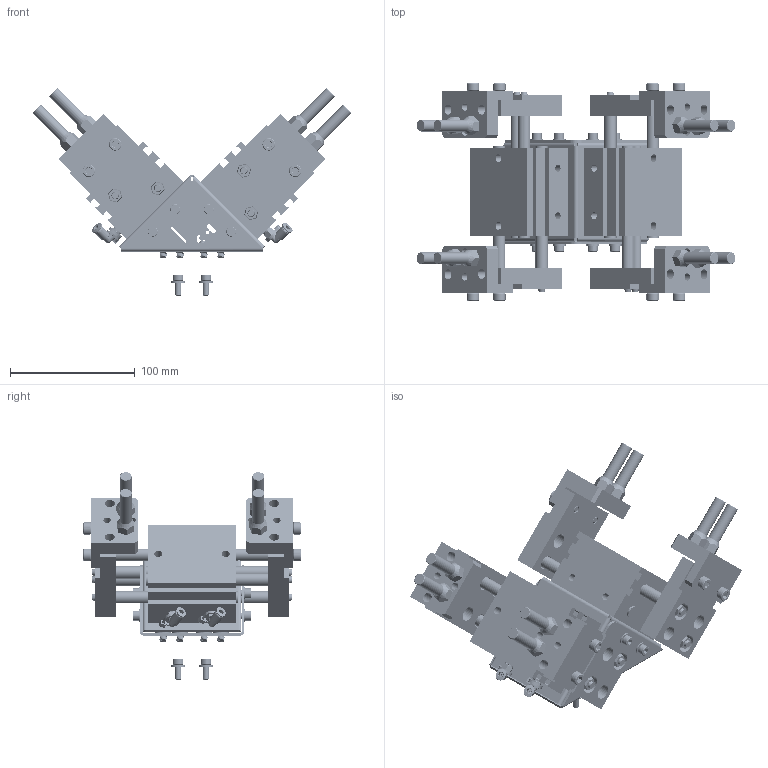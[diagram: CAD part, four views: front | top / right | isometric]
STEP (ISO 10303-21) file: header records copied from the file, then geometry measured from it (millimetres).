
FILE_DESCRIPTION (( 'STEP AP203' ), '1' );
FILE_NAME ('09-0613.STEP', '2023-09-05T15:17:08', ( '' ), ( '' ), 'SwSTEP 2.0', 'SolidWorks 2022', '' );
FILE_SCHEMA (( 'CONFIG_CONTROL_DESIGN' ));
Length unit declared in the file: inch
Products named in the file (20): 40-1626_40-1626; 10000220159; 70-0004; 70-0007; 10000105593; 45-0064; 10000214077_91239A316; 45-0093; 09-0613; 40-0037; 45-0040; 10000133958_Gripper Open; 10000154786_91290A228; 70-0008; 10000133960; 10000206994; 70-0016; 10000136307; 10000094571_Standard; 10000006235_DEFAULT
Assembly tree (80 placements, depth 2):
  09-0613
    10000133958_Gripper Open  x2
    10000220159
    10000133960
    10000136307  x4
    45-0093  x4
    10000154786_91290A228  x4
    10000006235_DEFAULT  x8
    45-0040  x8
    40-1626_40-1626  x8
    45-0064  x8
    40-0037  x8
    10000206994  x4
    10000214077_91239A316  x4
    10000105593  x8
    10000094571_Standard  x4
    70-0008
    70-0007
    70-0004
    70-0016
Bounding box: 255.51 x 174.24 x 166.45 mm (x, y, z)
Volume: 852278.7 mm3; surface area: 281773.5 mm2
Topology: 108 solids, 108 shells, 3210 faces, 7660 edges, 4816 vertices
Faces by surface type: cylinder 1500, plane 956, cone 596, torus 76, bspline 62, sphere 20
Entity records: 39718 total; most frequent: CARTESIAN_POINT 11830, DIRECTION 5067, ORIENTED_EDGE 4940, EDGE_CURVE 2470, AXIS2_PLACEMENT_3D 1907, VERTEX_POINT 1564, LINE 1253, VECTOR 1253
